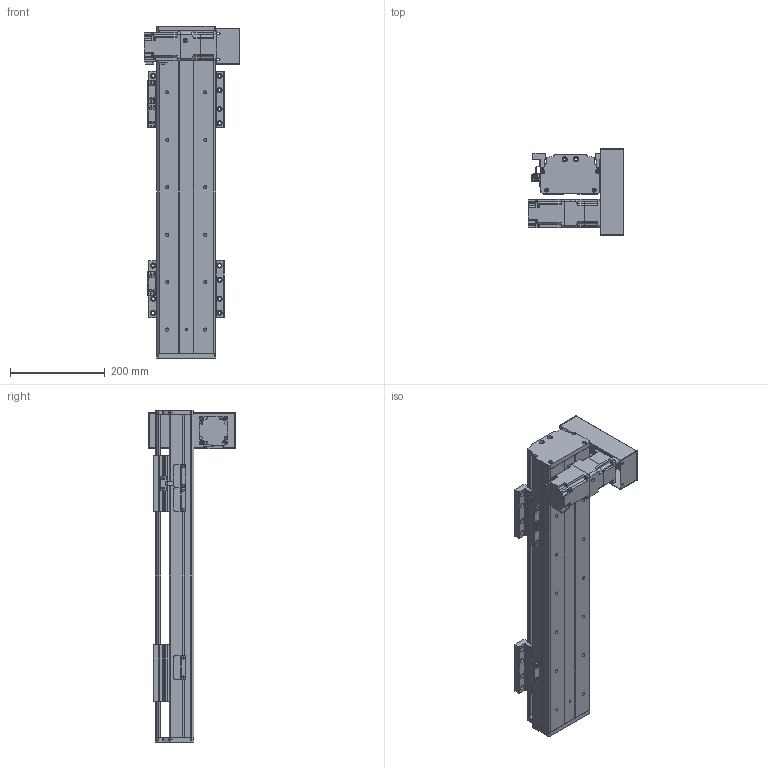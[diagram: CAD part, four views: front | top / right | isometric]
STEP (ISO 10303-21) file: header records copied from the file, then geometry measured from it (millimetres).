
FILE_DESCRIPTION(/* description */ (''),/* implementation_level */ '2;1');
FILE_NAME(/* name */ 'C:\Users\PC\Desktop\3D도면\STEP\새 폴더\DSB125-DR2G-W0400-L.stp',/* time_stamp */ '2018-06-21T14:55:18+09:00',/* author */ ('PC'),/* organization */ (''),/* preprocessor_version */ 'ST-DEVELOPER v16.5',/* originating_system */ 'Autodesk Inventor 2017',/* authorisation */ '');
FILE_SCHEMA (('AUTOMOTIVE_DESIGN { 1 0 10303 214 3 1 1 }'));
Length unit declared in the file: millimetre
Products named in the file (12): DSB125-DL2G-W0400-R_MIR; DSB125-BASE_MIR; DSB125-FRONT COVER_MIR; DSB125-REAR COVER_MIR; DSB125-UP COVER_MIR; hg-kr23__MIR; ab0601-p0401200402_MIR; 13-BELT COVER_MIR; DSR125-SENSOR DOG_MIR; pm-y65_step_MIR; SENSOR BRACKET(EE-SX674A)_MIR; DSB125-TABLE(MSB15S)_MIR
Assembly tree (16 placements, depth 2):
  DSB125-DL2G-W0400-R_MIR
    DSB125-BASE_MIR
    DSB125-FRONT COVER_MIR
    DSB125-REAR COVER_MIR
    DSB125-UP COVER_MIR
    hg-kr23__MIR
    ab0601-p0401200402_MIR
    13-BELT COVER_MIR
    DSR125-SENSOR DOG_MIR
    pm-y65_step_MIR  x3
    SENSOR BRACKET(EE-SX674A)_MIR  x3
    DSB125-TABLE(MSB15S)_MIR  x2
Bounding box: 202.1 x 182 x 700 mm (x, y, z)
Volume: 3135847.2 mm3; surface area: 906723.9 mm2
Topology: 17 solids, 17 shells, 1639 faces, 4450 edges, 2936 vertices
Faces by surface type: plane 903, cylinder 620, cone 104, sphere 8, torus 4
Full cylindrical faces by diameter (mm): 2.459 x20, 3.242 x16, 3.5 x6, 4 x1, 4.134 x16, 4.2 x4, 4.3 x1, 4.5 x50, 4.917 x20, 5 x22, 5.3 x1, 5.5 x4, 5.6 x8, 5.8 x4, 5.9 x8, 6 x4, 6.6 x22, 6.647 x14, 7.5 x32, 8.5 x8, 8.7 x1, 11 x22, 14 x1, 16 x2, 17 x1, 20 x1, 47 x1, 50 x3
Entity records: 35549 total; most frequent: CARTESIAN_POINT 6423, DIRECTION 6026, ORIENTED_EDGE 5434, EDGE_CURVE 2717, AXIS2_PLACEMENT_3D 2201, VERTEX_POINT 1926, EDGE_LOOP 1629, LINE 1624
